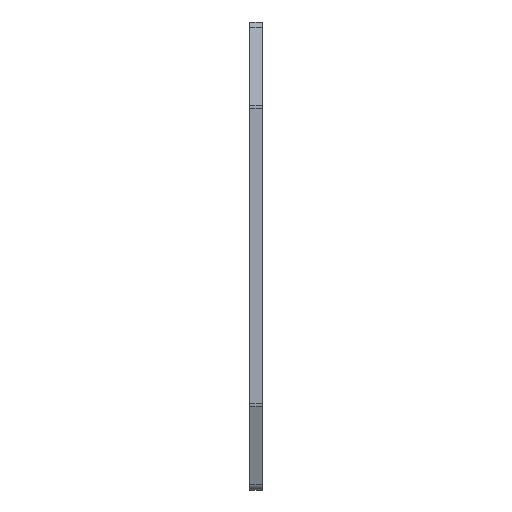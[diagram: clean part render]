
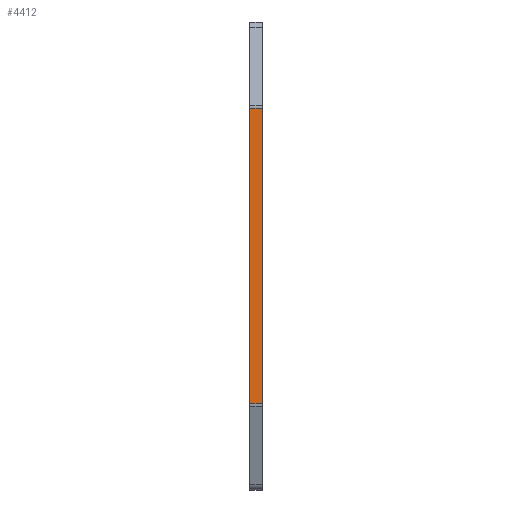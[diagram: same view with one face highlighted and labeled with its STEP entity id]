
A CAD part, left-side view. The second image highlights one B-rep face of the part: STEP entity #4412.
In plain terms, the highlighted planar face has unit normal (-1, 0, 0).
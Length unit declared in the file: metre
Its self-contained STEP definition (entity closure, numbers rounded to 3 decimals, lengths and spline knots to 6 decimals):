
#847=ORIENTED_EDGE('',*,*,#1935,.F.);
#848=ORIENTED_EDGE('',*,*,#1936,.F.);
#849=ORIENTED_EDGE('',*,*,#1937,.T.);
#850=ORIENTED_EDGE('',*,*,#1933,.T.);
#1933=EDGE_CURVE('',#2430,#2429,#2870,.T.);
#1935=EDGE_CURVE('',#2431,#2429,#2871,.T.);
#1936=EDGE_CURVE('',#2432,#2431,#2872,.T.);
#1937=EDGE_CURVE('',#2432,#2430,#2873,.T.);
#2429=VERTEX_POINT('',#7032);
#2430=VERTEX_POINT('',#7034);
#2431=VERTEX_POINT('',#7038);
#2432=VERTEX_POINT('',#7040);
#2870=LINE('',#7033,#3212);
#2871=LINE('',#7037,#3213);
#2872=LINE('',#7039,#3214);
#2873=LINE('',#7041,#3215);
#3212=VECTOR('',#5689,1.);
#3213=VECTOR('',#5694,1.);
#3214=VECTOR('',#5695,1.);
#3215=VECTOR('',#5696,1.);
#3400=EDGE_LOOP('',(#847,#848,#849,#850));
#3858=FACE_BOUND('',#3400,.T.);
#4269=PLANE('',#4740);
#4412=ADVANCED_FACE('',(#3858),#4269,.T.);
#4740=AXIS2_PLACEMENT_3D('',#7036,#5692,#5693);
#5689=DIRECTION('',(0.,1.,0.));
#5692=DIRECTION('',(-1.,0.,0.));
#5693=DIRECTION('',(0.,-1.,0.));
#5694=DIRECTION('',(0.,0.,1.));
#5695=DIRECTION('',(0.,1.,0.));
#5696=DIRECTION('',(0.,0.,1.));
#7032=CARTESIAN_POINT('',(-0.12,0.,0.036359));
#7033=CARTESIAN_POINT('',(-0.12,-0.003,0.036359));
#7034=CARTESIAN_POINT('',(-0.12,-0.003,0.036359));
#7036=CARTESIAN_POINT('',(-0.12,-0.003,0.));
#7037=CARTESIAN_POINT('',(-0.12,0.,0.));
#7038=CARTESIAN_POINT('',(-0.12,0.,-0.036359));
#7039=CARTESIAN_POINT('',(-0.12,-0.003,-0.036359));
#7040=CARTESIAN_POINT('',(-0.12,-0.003,-0.036359));
#7041=CARTESIAN_POINT('',(-0.12,-0.003,0.));
